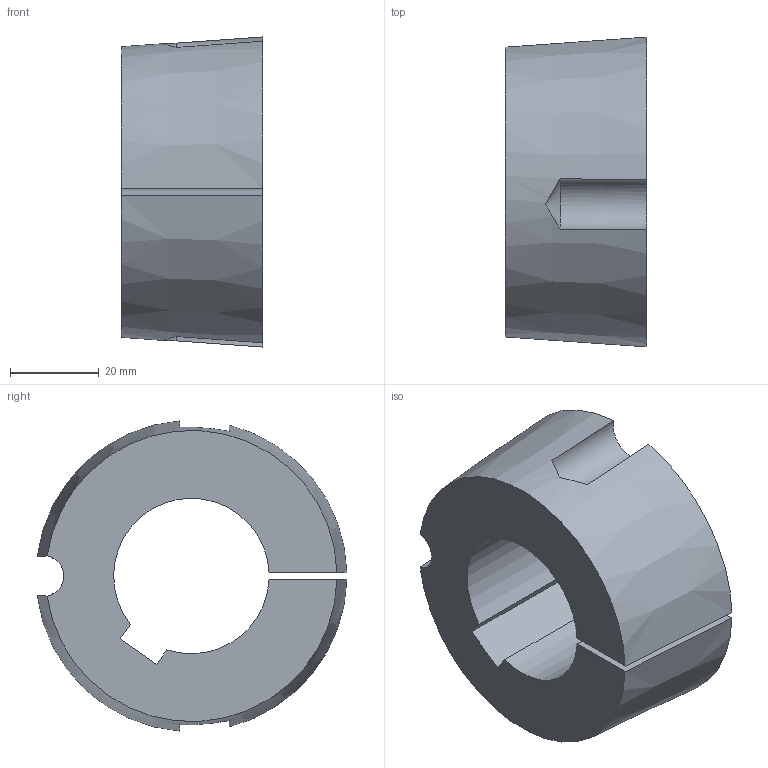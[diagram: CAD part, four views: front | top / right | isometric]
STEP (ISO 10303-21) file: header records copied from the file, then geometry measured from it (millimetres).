
FILE_DESCRIPTION( ( 'STEP AP203' ), '1' );
FILE_NAME( 'D:/export/antriebselemente/spannbuchsen_und_spannsaetze/taper-spannbuchsen_1008_bis_5050/taper-spannbuchsen_62250535Isometric_125.stp', '2018-12-11T11:11:13', ( '' ), ( '' ), ' ', 'PARTsolutions', ' ' );
FILE_SCHEMA( ( 'CONFIG_CONTROL_DESIGN' ) );
Length unit declared in the file: millimetre
Products named in the file (1): _taper-spannbuchsen_62250535
Bounding box: 31.8 x 69.72 x 69.81 mm (x, y, z)
Volume: 78673 mm3; surface area: 16999 mm2
Topology: 1 solids, 1 shells, 16 faces, 42 edges, 28 vertices
Faces by surface type: plane 7, cylinder 5, cone 4
Entity records: 618 total; most frequent: CARTESIAN_POINT 179, ORIENTED_EDGE 84, DIRECTION 82, EDGE_CURVE 42, AXIS2_PLACEMENT_3D 33, VERTEX_POINT 28, ADVANCED_FACE 16, FACE_OUTER_BOUND 16
